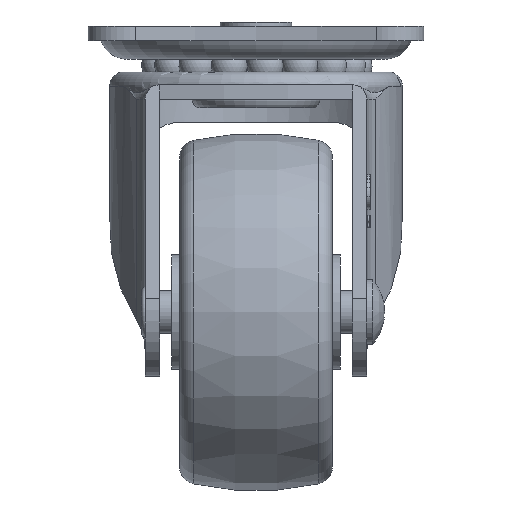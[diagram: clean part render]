
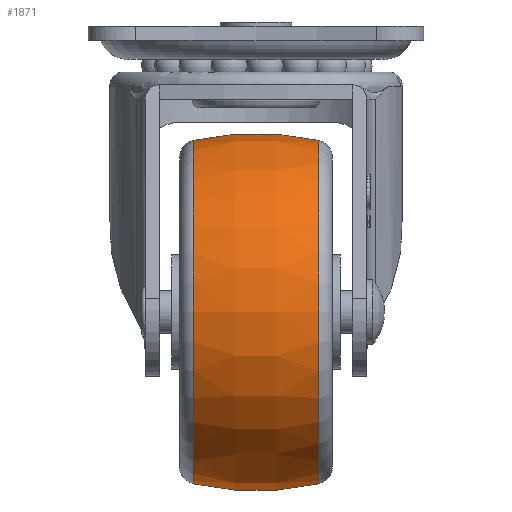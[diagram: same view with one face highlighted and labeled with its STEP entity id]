
A CAD part, left-side view. The second image highlights one B-rep face of the part: STEP entity #1871.
In plain terms, the highlighted free-form (B-spline) face has degree [3, 3] with [4, 7] control points.
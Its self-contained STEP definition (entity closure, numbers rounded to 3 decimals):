
#35=(
BOUNDED_SURFACE()
B_SPLINE_SURFACE(3,3,((#12183,#12184,#12185,#12186,#12187,#12188,#12189),
(#12190,#12191,#12192,#12193,#12194,#12195,#12196),(#12197,#12198,#12199,
#12200,#12201,#12202,#12203),(#12204,#12205,#12206,#12207,#12208,#12209,
#12210)),.UNSPECIFIED.,.F.,.T.,.F.)
B_SPLINE_SURFACE_WITH_KNOTS((4,4),(1,3,3,3,1),(0.,1.),(-0.5,0.,0.5,1.,1.5),
 .UNSPECIFIED.)
GEOMETRIC_REPRESENTATION_ITEM()
RATIONAL_B_SPLINE_SURFACE(((1.,0.333,0.333,1.,0.333,
0.333,1.),(0.984,0.328,0.328,
0.984,0.328,0.328,0.984),
(0.984,0.328,0.328,0.984,
0.328,0.328,0.984),(1.,0.333,
0.333,1.,0.333,0.333,1.)))
REPRESENTATION_ITEM('')
SURFACE()
);
#1871=ADVANCED_FACE('',(#2243,#2244),#35,.T.);
#2243=FACE_BOUND('',#2657,.T.);
#2244=FACE_BOUND('',#2658,.T.);
#2657=EDGE_LOOP('',(#4309));
#2658=EDGE_LOOP('',(#4310));
#4309=ORIENTED_EDGE('',*,*,#5888,.T.);
#4310=ORIENTED_EDGE('',*,*,#5883,.T.);
#5031=VERTEX_POINT('',#12161);
#5036=VERTEX_POINT('',#12173);
#5883=EDGE_CURVE('',#5031,#5031,#6100,.T.);
#5888=EDGE_CURVE('',#5036,#5036,#6105,.T.);
#6100=CIRCLE('',#6657,24.032);
#6105=CIRCLE('',#6664,24.032);
#6657=AXIS2_PLACEMENT_3D('',#12160,#8205,#8206);
#6664=AXIS2_PLACEMENT_3D('',#12172,#8219,#8220);
#8205=DIRECTION('',(0.,1.,0.));
#8206=DIRECTION('',(0.,0.,1.));
#8219=DIRECTION('',(0.,-1.,0.));
#8220=DIRECTION('',(0.,0.,-1.));
#12160=CARTESIAN_POINT('',(-23.,-8.747,-40.));
#12161=CARTESIAN_POINT('',(-23.,-8.747,-15.968));
#12172=CARTESIAN_POINT('',(-23.,8.747,-40.));
#12173=CARTESIAN_POINT('',(-23.,8.747,-64.032));
#12183=CARTESIAN_POINT('',(-23.,-8.747,-64.032));
#12184=CARTESIAN_POINT('',(25.064,-8.747,-64.032));
#12185=CARTESIAN_POINT('',(25.064,-8.747,-15.968));
#12186=CARTESIAN_POINT('',(-23.,-8.747,-15.968));
#12187=CARTESIAN_POINT('',(-71.064,-8.747,-15.968));
#12188=CARTESIAN_POINT('',(-71.064,-8.747,-64.032));
#12189=CARTESIAN_POINT('',(-23.,-8.747,-64.032));
#12190=CARTESIAN_POINT('',(-23.,-2.963,-65.328));
#12191=CARTESIAN_POINT('',(27.656,-2.963,-65.328));
#12192=CARTESIAN_POINT('',(27.656,-2.963,-14.672));
#12193=CARTESIAN_POINT('',(-23.,-2.963,-14.672));
#12194=CARTESIAN_POINT('',(-73.656,-2.963,-14.672));
#12195=CARTESIAN_POINT('',(-73.656,-2.963,-65.328));
#12196=CARTESIAN_POINT('',(-23.,-2.963,-65.328));
#12197=CARTESIAN_POINT('',(-23.,2.963,-65.328));
#12198=CARTESIAN_POINT('',(27.656,2.963,-65.328));
#12199=CARTESIAN_POINT('',(27.656,2.963,-14.672));
#12200=CARTESIAN_POINT('',(-23.,2.963,-14.672));
#12201=CARTESIAN_POINT('',(-73.656,2.963,-14.672));
#12202=CARTESIAN_POINT('',(-73.656,2.963,-65.328));
#12203=CARTESIAN_POINT('',(-23.,2.963,-65.328));
#12204=CARTESIAN_POINT('',(-23.,8.747,-64.032));
#12205=CARTESIAN_POINT('',(25.064,8.747,-64.032));
#12206=CARTESIAN_POINT('',(25.064,8.747,-15.968));
#12207=CARTESIAN_POINT('',(-23.,8.747,-15.968));
#12208=CARTESIAN_POINT('',(-71.064,8.747,-15.968));
#12209=CARTESIAN_POINT('',(-71.064,8.747,-64.032));
#12210=CARTESIAN_POINT('',(-23.,8.747,-64.032));
